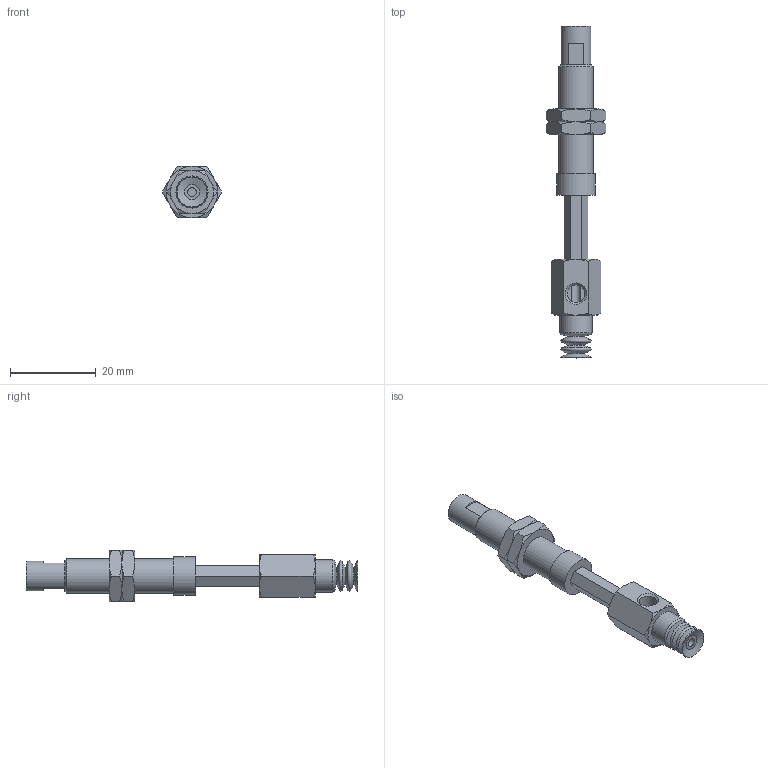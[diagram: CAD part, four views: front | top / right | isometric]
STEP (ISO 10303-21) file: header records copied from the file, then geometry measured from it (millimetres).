
FILE_DESCRIPTION(('STEP AP203'),'1');
FILE_NAME('.stp','2025-04-03T07:40:36',(' '),(' '),'Spatial InterOp 3D',' ',' ');
FILE_SCHEMA(('CONFIG_CONTROL_DESIGN'));
Length unit declared in the file: millimetre
Products named in the file (6): BNABPCYH-7-15-※; Connector_h-7-15; Nut napc_h-7-15; NAPCTH-7-15-FBODY; NAPCTH-7-15-MBODY; BPCG-7-※
Assembly tree (6 placements, depth 2):
  BNABPCYH-7-15-※
    Connector_h-7-15
    Nut napc_h-7-15  x2
    NAPCTH-7-15-FBODY
    NAPCTH-7-15-MBODY
    BPCG-7-※
Bounding box: 13.86 x 77.5 x 12 mm (x, y, z)
Volume: 3884.5 mm3; surface area: 4855.5 mm2
Topology: 6 solids, 6 shells, 146 faces, 310 edges, 185 vertices
Faces by surface type: plane 63, cone 55, cylinder 15, torus 13
Full cylindrical faces by diameter (mm): 2 x2, 4 x2, 4.134 x2, 5 x1, 6 x2, 7 x1, 7.188 x2, 7.5 x1, 8 x1, 9 x1
Entity records: 3584 total; most frequent: CARTESIAN_POINT 848, DIRECTION 508, ORIENTED_EDGE 432, AXIS2_PLACEMENT_3D 216, EDGE_CURVE 216, EDGE_LOOP 184, VERTEX_POINT 154, FACE_OUTER_BOUND 150
